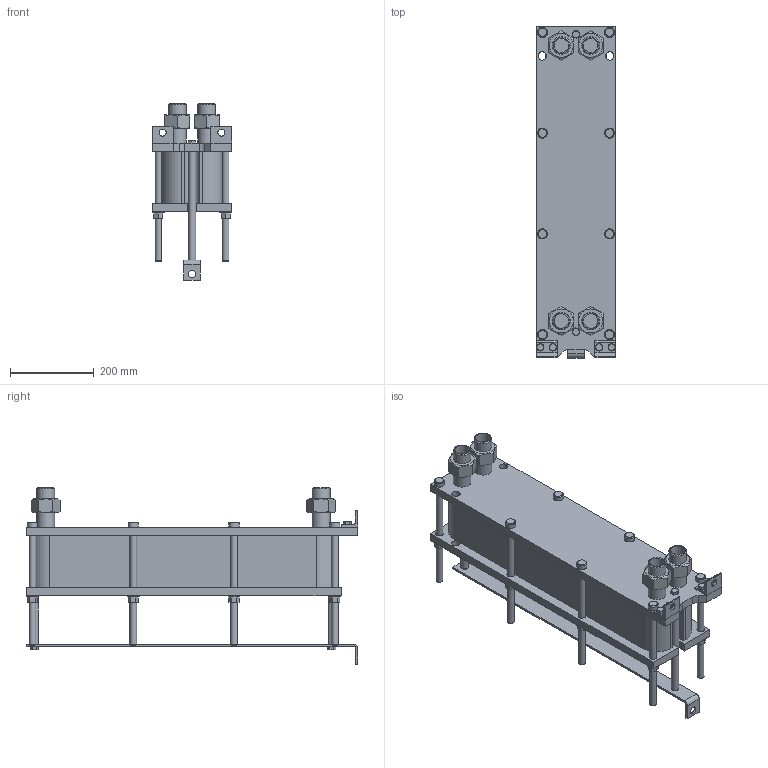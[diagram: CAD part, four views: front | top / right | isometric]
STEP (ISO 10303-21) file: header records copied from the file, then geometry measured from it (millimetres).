
FILE_DESCRIPTION(/* description */ (''),/* implementation_level */ '2;1');
FILE_NAME(/* name */ 'C:\Users\zhuro\Desktop\ENCO\TO\ЭН-008\ЭН-0,5-008-40-1.stp',/* time_stamp */ '2022-06-06T10:48:17+03:00',/* author */ ('zhuro'),/* organization */ (''),/* preprocessor_version */ 'ST-DEVELOPER v18.1',/* originating_system */ 'Autodesk Inventor 2022',/* authorisation */ '');
FILE_SCHEMA (('AUTOMOTIVE_DESIGN { 1 0 10303 214 3 1 1 }','INTEGRATED_CNC_SCHEMA'));
Length unit declared in the file: millimetre
Products named in the file (1): ЭН-0,5-008-40-1
Bounding box: 190 x 790 x 421 mm (x, y, z)
Volume: 19358160.4 mm3; surface area: 1513995 mm2
Topology: 40 solids, 40 shells, 428 faces, 924 edges, 606 vertices
Faces by surface type: plane 273, cylinder 109, cone 40, torus 6
Full cylindrical faces by diameter (mm): 12 x6, 14 x2, 16 x20, 17 x8, 18 x19, 20 x5, 24 x8, 28 x8, 34.3 x8, 42.3 x8
Entity records: 15843 total; most frequent: CARTESIAN_POINT 5991, DIRECTION 1984, ORIENTED_EDGE 1848, EDGE_CURVE 924, AXIS2_PLACEMENT_3D 715, VERTEX_POINT 606, LINE 554, VECTOR 554
